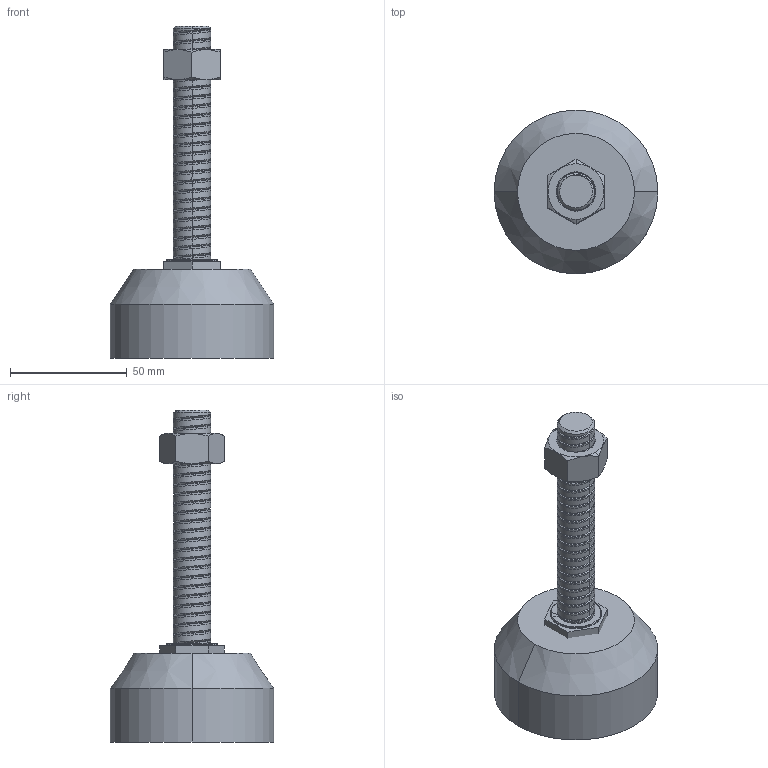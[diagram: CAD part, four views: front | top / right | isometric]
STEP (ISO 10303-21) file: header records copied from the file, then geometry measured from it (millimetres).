
FILE_DESCRIPTION (( 'STEP AP203' ), '1' );
FILE_NAME ('F-101-3-16-L.STEP', '2015-11-23T03:04:30', ( '' ), ( '' ), 'SwSTEP 2.0', 'SolidWorks 2014', '' );
FILE_SCHEMA (( 'CONFIG_CONTROL_DESIGN' ));
Length unit declared in the file: millimetre
Products named in the file (4): DT-M16X100L-12調整螺絲-1; 65圓腳座-42; M16螺帽-1; F-101-3-16-L
Assembly tree (3 placements, depth 2):
  F-101-3-16-L
    DT-M16X100L-12調整螺絲-1
    65圓腳座-42
    M16螺帽-1
Bounding box: 70 x 70 x 142 mm (x, y, z)
Volume: 164752.2 mm3; surface area: 29274.4 mm2
Topology: 4 solids, 4 shells, 162 faces, 405 edges, 254 vertices
Faces by surface type: cylinder 76, cone 50, plane 24, bspline 12
Entity records: 13316 total; most frequent: CARTESIAN_POINT 9408, ORIENTED_EDGE 810, DIRECTION 679, EDGE_CURVE 405, AXIS2_PLACEMENT_3D 270, VERTEX_POINT 254, EDGE_LOOP 169, FACE_OUTER_BOUND 162
